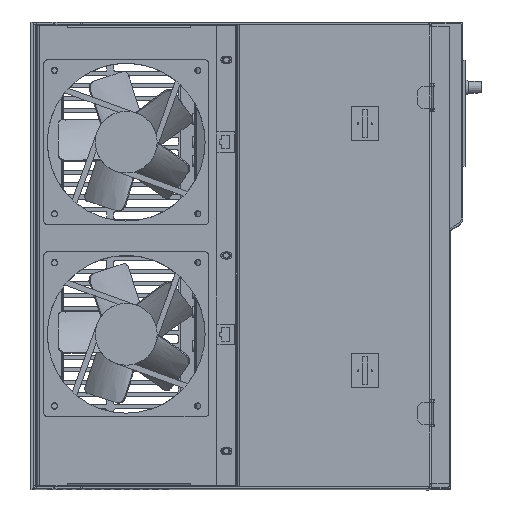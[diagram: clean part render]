
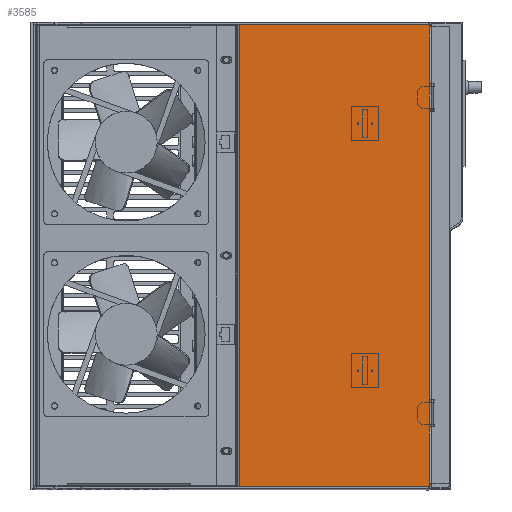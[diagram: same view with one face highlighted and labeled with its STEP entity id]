
A CAD part, top view. The second image highlights one B-rep face of the part: STEP entity #3585.
In plain terms, the highlighted planar face has unit normal (0, 0, 1) as drawn and (0, -1, 0) by its records, which use the part's own axes.
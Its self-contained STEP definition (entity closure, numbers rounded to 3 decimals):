
#3585=ADVANCED_FACE('',(#11794),#11796,.T.);
#11794=FACE_BOUND('',#11795,.T.);
#11795=EDGE_LOOP('',(#32349,#32350,#32351,#32352,#32353,#32354,#32355,#32356,#32357,
#32358));
#11796=PLANE('',#11797);
#11797=AXIS2_PLACEMENT_3D('',#11798,#11799,#11800);
#11798=CARTESIAN_POINT('',(0.,0.,0.));
#11799=DIRECTION('',(0.,-1.,0.));
#11800=DIRECTION('',(-1.,0.,0.));
#32349=ORIENTED_EDGE('',*,*,#43913,.T.);
#32350=ORIENTED_EDGE('',*,*,#43902,.T.);
#32351=ORIENTED_EDGE('',*,*,#43914,.T.);
#32352=ORIENTED_EDGE('',*,*,#43915,.T.);
#32353=ORIENTED_EDGE('',*,*,#43916,.T.);
#32354=ORIENTED_EDGE('',*,*,#43917,.T.);
#32355=ORIENTED_EDGE('',*,*,#43918,.T.);
#32356=ORIENTED_EDGE('',*,*,#43904,.T.);
#32357=ORIENTED_EDGE('',*,*,#43919,.T.);
#32358=ORIENTED_EDGE('',*,*,#43898,.T.);
#43898=EDGE_CURVE('',#51461,#51459,#51462,.T.);
#43902=EDGE_CURVE('',#51464,#51466,#51468,.T.);
#43904=EDGE_CURVE('',#51471,#51469,#51472,.T.);
#43913=EDGE_CURVE('',#51459,#51464,#51485,.F.);
#43914=EDGE_CURVE('',#51466,#51486,#51487,.T.);
#43915=EDGE_CURVE('',#51486,#51488,#51489,.T.);
#43916=EDGE_CURVE('',#51488,#51490,#51491,.T.);
#43917=EDGE_CURVE('',#51490,#51492,#51493,.T.);
#43918=EDGE_CURVE('',#51492,#51471,#51494,.T.);
#43919=EDGE_CURVE('',#51469,#51461,#51495,.F.);
#51459=VERTEX_POINT('',#66019);
#51461=VERTEX_POINT('',#66024);
#51462=LINE('',#66025,#66026);
#51464=VERTEX_POINT('',#66032);
#51466=VERTEX_POINT('',#66037);
#51468=LINE('',#66042,#66043);
#51469=VERTEX_POINT('',#66045);
#51471=VERTEX_POINT('',#66050);
#51472=LINE('',#66051,#66052);
#51485=LINE('',#66083,#66084);
#51486=VERTEX_POINT('',#66086);
#51487=LINE('',#66087,#66088);
#51488=VERTEX_POINT('',#66090);
#51489=LINE('',#66091,#66092);
#51490=VERTEX_POINT('',#66094);
#51491=LINE('',#66095,#66096);
#51492=VERTEX_POINT('',#66098);
#51493=LINE('',#66099,#66100);
#51494=LINE('',#66102,#66103);
#51495=LINE('',#66105,#66106);
#66019=CARTESIAN_POINT('',(-156.4,0.,-105.));
#66024=CARTESIAN_POINT('',(-156.4,0.,105.));
#66025=CARTESIAN_POINT('',(-156.4,0.,105.));
#66026=VECTOR('',#66027,1.);
#66027=DIRECTION('',(0.,0.,-1.));
#66032=CARTESIAN_POINT('',(-156.4,0.,-125.));
#66037=CARTESIAN_POINT('',(-156.4,0.,-166.5));
#66042=CARTESIAN_POINT('',(-156.4,0.,-125.));
#66043=VECTOR('',#66044,1.);
#66044=DIRECTION('',(0.,0.,-1.));
#66045=CARTESIAN_POINT('',(-156.4,0.,125.));
#66050=CARTESIAN_POINT('',(-156.4,0.,166.5));
#66051=CARTESIAN_POINT('',(-156.4,0.,166.5));
#66052=VECTOR('',#66053,1.);
#66053=DIRECTION('',(0.,0.,-1.));
#66083=CARTESIAN_POINT('',(-156.4,0.,-125.));
#66084=VECTOR('',#66085,1.);
#66085=DIRECTION('',(0.,0.,1.));
#66086=CARTESIAN_POINT('',(-156.4,0.,-168.5));
#66087=CARTESIAN_POINT('',(-156.4,0.,-166.5));
#66088=VECTOR('',#66089,1.);
#66089=DIRECTION('',(0.,0.,-1.));
#66090=CARTESIAN_POINT('',(-18.1,0.,-168.5));
#66091=CARTESIAN_POINT('',(-156.4,0.,-168.5));
#66092=VECTOR('',#66093,1.);
#66093=DIRECTION('',(1.,0.,0.));
#66094=CARTESIAN_POINT('',(-18.1,0.,168.5));
#66095=CARTESIAN_POINT('',(-18.1,0.,-168.5));
#66096=VECTOR('',#66097,1.);
#66097=DIRECTION('',(0.,0.,1.));
#66098=CARTESIAN_POINT('',(-156.4,0.,168.5));
#66099=CARTESIAN_POINT('',(-18.1,0.,168.5));
#66100=VECTOR('',#66101,1.);
#66101=DIRECTION('',(-1.,0.,0.));
#66102=CARTESIAN_POINT('',(-156.4,0.,168.5));
#66103=VECTOR('',#66104,1.);
#66104=DIRECTION('',(0.,0.,-1.));
#66105=CARTESIAN_POINT('',(-156.4,0.,105.));
#66106=VECTOR('',#66107,1.);
#66107=DIRECTION('',(0.,0.,1.));
